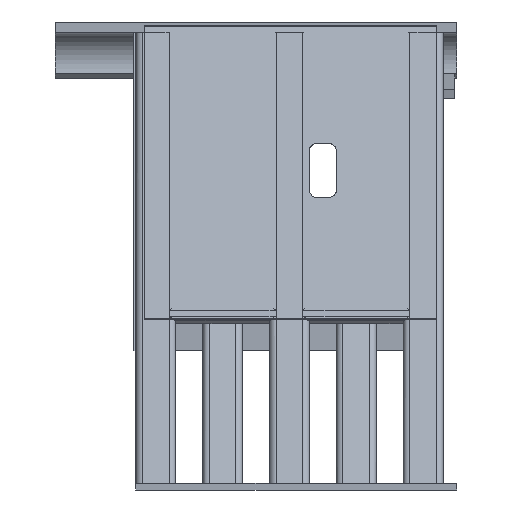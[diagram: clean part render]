
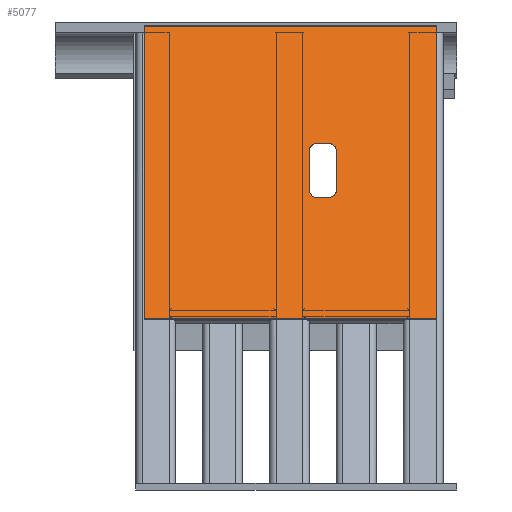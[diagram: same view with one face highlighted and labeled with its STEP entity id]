
A CAD part, left-side view. The second image highlights one B-rep face of the part: STEP entity #5077.
In plain terms, the highlighted planar face has unit normal (-0.914, 0, 0.407) as drawn and (0, 0, 1) by its records, which use the part's own axes.
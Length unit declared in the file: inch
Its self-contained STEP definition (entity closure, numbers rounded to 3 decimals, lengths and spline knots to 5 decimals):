
#323 = CARTESIAN_POINT ( 'NONE',  ( 0., -55.22083, 0.25 ) ) ;
#325 = CARTESIAN_POINT ( 'NONE',  ( -20.41421, -55.22083, 0.25 ) ) ;
#327 = CARTESIAN_POINT ( 'NONE',  ( -24., -55.67423, 0.25 ) ) ;
#328 = DIRECTION ( 'NONE',  ( -1., 0., 0. ) ) ;
#329 = CARTESIAN_POINT ( 'NONE',  ( -23.58579, -55.22083, 0.25 ) ) ;
#330 = CARTESIAN_POINT ( 'NONE',  ( 4.75, -83.34273, 0.25 ) ) ;
#331 = CARTESIAN_POINT ( 'NONE',  ( -23., -55.22083, 0.25 ) ) ;
#332 = CARTESIAN_POINT ( 'NONE',  ( -24., -56.31543, 0.25 ) ) ;
#333 = CARTESIAN_POINT ( 'NONE',  ( -20., 0., 0.25 ) ) ;
#334 = CARTESIAN_POINT ( 'NONE',  ( -20., -55.67423, 0.25 ) ) ;
#335 = CARTESIAN_POINT ( 'NONE',  ( -20., -56.31543, 0.25 ) ) ;
#336 = CARTESIAN_POINT ( 'NONE',  ( -21., -55.22083, 0.25 ) ) ;
#337 = DIRECTION ( 'NONE',  ( 0., 1., 0. ) ) ;
#338 = CARTESIAN_POINT ( 'NONE',  ( -20., -63.52424, 0.25 ) ) ;
#339 = CARTESIAN_POINT ( 'NONE',  ( -20.41421, -63.97764, 0.25 ) ) ;
#340 = CARTESIAN_POINT ( 'NONE',  ( 0., -63.97764, 0.25 ) ) ;
#341 = CARTESIAN_POINT ( 'NONE',  ( -21., -63.97764, 0.25 ) ) ;
#342 = CARTESIAN_POINT ( 'NONE',  ( -20., -62.88304, 0.25 ) ) ;
#386 = FACE_BOUND ( 'NONE', #2064, .T. ) ;
#394 = FACE_OUTER_BOUND ( 'NONE', #2061, .T. ) ;
#635 = AXIS2_PLACEMENT_3D ( 'NONE', #4843, #4848, #4849 ) ;
#951 = CARTESIAN_POINT ( 'NONE',  ( 4.75, -83.34273, 0.25 ) ) ;
#952 = DIRECTION ( 'NONE',  ( 0., 1., 0. ) ) ;
#953 = CARTESIAN_POINT ( 'NONE',  ( 4.75, -35.34273, 0.25 ) ) ;
#954 = DIRECTION ( 'NONE',  ( -1., 0., 0. ) ) ;
#955 = CARTESIAN_POINT ( 'NONE',  ( -39., -83.34273, 0.25 ) ) ;
#956 = DIRECTION ( 'NONE',  ( 0., -1., 0. ) ) ;
#1343 = CARTESIAN_POINT ( 'NONE',  ( -39., -35.34273, 0.25 ) ) ;
#1348 = CARTESIAN_POINT ( 'NONE',  ( -24., -56.31543, 0.25 ) ) ;
#1352 = CARTESIAN_POINT ( 'NONE',  ( 4.75, -83.34273, 0.25 ) ) ;
#1353 = CARTESIAN_POINT ( 'NONE',  ( -23., -63.97764, 0.25 ) ) ;
#1354 = CARTESIAN_POINT ( 'NONE',  ( -21., -55.22083, 0.25 ) ) ;
#1356 = CARTESIAN_POINT ( 'NONE',  ( 4.75, -35.34273, 0.25 ) ) ;
#1357 = CARTESIAN_POINT ( 'NONE',  ( -23., -55.22083, 0.25 ) ) ;
#1362 = CARTESIAN_POINT ( 'NONE',  ( -21., -63.97764, 0.25 ) ) ;
#2061 = EDGE_LOOP ( 'NONE', ( #4296, #2099, #4300, #2126 ) ) ;
#2064 = EDGE_LOOP ( 'NONE', ( #4369, #4345, #4346, #3386, #4273, #3414, #4301, #4322 ) ) ;
#2099 = ORIENTED_EDGE ( 'NONE', *, *, #6483, .T. ) ;
#2126 = ORIENTED_EDGE ( 'NONE', *, *, #6485, .T. ) ;
#2292 = CARTESIAN_POINT ( 'NONE',  ( -20., -62.88304, 0.25 ) ) ;
#2293 = CARTESIAN_POINT ( 'NONE',  ( -39., -83.34273, 0.25 ) ) ;
#2294 = CARTESIAN_POINT ( 'NONE',  ( -20., -56.31543, 0.25 ) ) ;
#2297 = CARTESIAN_POINT ( 'NONE',  ( -24., -62.88304, 0.25 ) ) ;
#3292 = DIRECTION ( 'NONE',  ( 1., 0., 0. ) ) ;
#3293 = CARTESIAN_POINT ( 'NONE',  ( -23.58579, -63.97764, 0.25 ) ) ;
#3294 = CARTESIAN_POINT ( 'NONE',  ( -24., -63.52424, 0.25 ) ) ;
#3295 = CARTESIAN_POINT ( 'NONE',  ( -24., 0., 0.25 ) ) ;
#3296 = CARTESIAN_POINT ( 'NONE',  ( -24., -62.88304, 0.25 ) ) ;
#3297 = CARTESIAN_POINT ( 'NONE',  ( -23., -63.97764, 0.25 ) ) ;
#3298 = DIRECTION ( 'NONE',  ( 0., -1., 0. ) ) ;
#3301 = DIRECTION ( 'NONE',  ( 1., 0., 0. ) ) ;
#3386 = ORIENTED_EDGE ( 'NONE', *, *, #3529, .F. ) ;
#3414 = ORIENTED_EDGE ( 'NONE', *, *, #3531, .F. ) ;
#3526 = EDGE_CURVE ( 'NONE', #8451, #8462, #7524, .T. ) ;
#3527 = EDGE_CURVE ( 'NONE', #8462, #8443, #5177, .T. ) ;
#3528 = EDGE_CURVE ( 'NONE', #4424, #8451, #5190, .T. ) ;
#3529 = EDGE_CURVE ( 'NONE', #4422, #4424, #7526, .T. ) ;
#3530 = EDGE_CURVE ( 'NONE', #8471, #4422, #5189, .T. ) ;
#3531 = EDGE_CURVE ( 'NONE', #8447, #8471, #7528, .T. ) ;
#3532 = EDGE_CURVE ( 'NONE', #4427, #8447, #5203, .T. ) ;
#3533 = EDGE_CURVE ( 'NONE', #8443, #4427, #7531, .T. ) ;
#3534 = EDGE_CURVE ( 'NONE', #4423, #8445, #7533, .T. ) ;
#4273 = ORIENTED_EDGE ( 'NONE', *, *, #3530, .F. ) ;
#4296 = ORIENTED_EDGE ( 'NONE', *, *, #3534, .T. ) ;
#4300 = ORIENTED_EDGE ( 'NONE', *, *, #6484, .T. ) ;
#4301 = ORIENTED_EDGE ( 'NONE', *, *, #3532, .F. ) ;
#4322 = ORIENTED_EDGE ( 'NONE', *, *, #3533, .F. ) ;
#4345 = ORIENTED_EDGE ( 'NONE', *, *, #3526, .F. ) ;
#4346 = ORIENTED_EDGE ( 'NONE', *, *, #3528, .F. ) ;
#4369 = ORIENTED_EDGE ( 'NONE', *, *, #3527, .F. ) ;
#4422 = VERTEX_POINT ( 'NONE', #2292 ) ;
#4423 = VERTEX_POINT ( 'NONE', #2293 ) ;
#4424 = VERTEX_POINT ( 'NONE', #2294 ) ;
#4427 = VERTEX_POINT ( 'NONE', #2297 ) ;
#4843 = CARTESIAN_POINT ( 'NONE',  ( 0., 0., 0.25 ) ) ;
#4846 = PLANE ( 'NONE',  #635 ) ;
#4848 = DIRECTION ( 'NONE',  ( 0., 0., 1. ) ) ;
#4849 = DIRECTION ( 'NONE',  ( 0., -1., 0. ) ) ;
#5077 = ADVANCED_FACE ( 'NONE', ( #386, #394 ), #4846, .T. ) ;
#5177 =( BOUNDED_CURVE ( )  B_SPLINE_CURVE ( 3, ( #331, #329, #327, #332 ),
 .UNSPECIFIED., .F., .T. ) 
 B_SPLINE_CURVE_WITH_KNOTS ( ( 4, 4 ),
 ( 3.14159, 4.71239 ),
 .UNSPECIFIED. ) 
 CURVE ( )  GEOMETRIC_REPRESENTATION_ITEM ( )  RATIONAL_B_SPLINE_CURVE ( ( 1., 0.805, 0.805, 1. ) ) 
 REPRESENTATION_ITEM ( '' )  );
#5189 =( BOUNDED_CURVE ( )  B_SPLINE_CURVE ( 3, ( #341, #339, #338, #342 ),
 .UNSPECIFIED., .F., .F. ) 
 B_SPLINE_CURVE_WITH_KNOTS ( ( 4, 4 ),
 ( 0., 1.5708 ),
 .UNSPECIFIED. ) 
 CURVE ( )  GEOMETRIC_REPRESENTATION_ITEM ( )  RATIONAL_B_SPLINE_CURVE ( ( 1., 0.805, 0.805, 1. ) ) 
 REPRESENTATION_ITEM ( '' )  );
#5190 =( BOUNDED_CURVE ( )  B_SPLINE_CURVE ( 3, ( #335, #334, #325, #336 ),
 .UNSPECIFIED., .F., .F. ) 
 B_SPLINE_CURVE_WITH_KNOTS ( ( 4, 4 ),
 ( 1.5708, 3.14159 ),
 .UNSPECIFIED. ) 
 CURVE ( )  GEOMETRIC_REPRESENTATION_ITEM ( )  RATIONAL_B_SPLINE_CURVE ( ( 1., 0.805, 0.805, 1. ) ) 
 REPRESENTATION_ITEM ( '' )  );
#5203 =( BOUNDED_CURVE ( )  B_SPLINE_CURVE ( 3, ( #3296, #3294, #3293, #3297 ),
 .UNSPECIFIED., .F., .F. ) 
 B_SPLINE_CURVE_WITH_KNOTS ( ( 4, 4 ),
 ( 4.71239, 6.28319 ),
 .UNSPECIFIED. ) 
 CURVE ( )  GEOMETRIC_REPRESENTATION_ITEM ( )  RATIONAL_B_SPLINE_CURVE ( ( 1., 0.805, 0.805, 1. ) ) 
 REPRESENTATION_ITEM ( '' )  );
#6483 = EDGE_CURVE ( 'NONE', #8445, #8457, #7016, .T. ) ;
#6484 = EDGE_CURVE ( 'NONE', #8457, #8450, #7018, .T. ) ;
#6485 = EDGE_CURVE ( 'NONE', #8450, #4423, #7020, .T. ) ;
#7016 = LINE ( 'NONE', #951, #7019 ) ;
#7018 = LINE ( 'NONE', #953, #7021 ) ;
#7019 = VECTOR ( 'NONE', #952, 39.37008 ) ;
#7020 = LINE ( 'NONE', #955, #7023 ) ;
#7021 = VECTOR ( 'NONE', #954, 39.37008 ) ;
#7023 = VECTOR ( 'NONE', #956, 39.37008 ) ;
#7524 = LINE ( 'NONE', #323, #7529 ) ;
#7526 = LINE ( 'NONE', #333, #7530 ) ;
#7528 = LINE ( 'NONE', #340, #7532 ) ;
#7529 = VECTOR ( 'NONE', #328, 39.37008 ) ;
#7530 = VECTOR ( 'NONE', #337, 39.37008 ) ;
#7531 = LINE ( 'NONE', #3295, #7534 ) ;
#7532 = VECTOR ( 'NONE', #3292, 39.37008 ) ;
#7533 = LINE ( 'NONE', #330, #7537 ) ;
#7534 = VECTOR ( 'NONE', #3298, 39.37008 ) ;
#7537 = VECTOR ( 'NONE', #3301, 39.37008 ) ;
#8443 = VERTEX_POINT ( 'NONE', #1348 ) ;
#8445 = VERTEX_POINT ( 'NONE', #1352 ) ;
#8447 = VERTEX_POINT ( 'NONE', #1353 ) ;
#8450 = VERTEX_POINT ( 'NONE', #1343 ) ;
#8451 = VERTEX_POINT ( 'NONE', #1354 ) ;
#8457 = VERTEX_POINT ( 'NONE', #1356 ) ;
#8462 = VERTEX_POINT ( 'NONE', #1357 ) ;
#8471 = VERTEX_POINT ( 'NONE', #1362 ) ;
